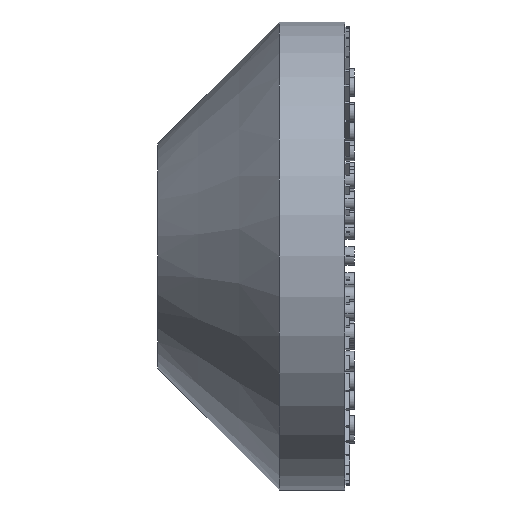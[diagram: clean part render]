
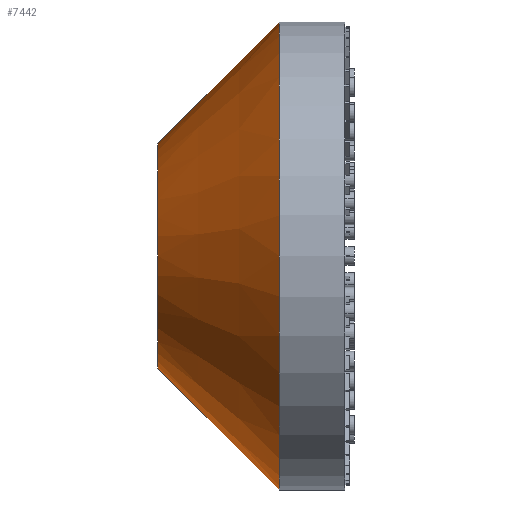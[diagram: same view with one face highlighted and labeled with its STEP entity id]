
A CAD part, left-side view. The second image highlights one B-rep face of the part: STEP entity #7442.
In plain terms, the highlighted conical face has half-angle 45 degrees and reference radius 12 mm.
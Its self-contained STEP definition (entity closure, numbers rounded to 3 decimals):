
#300 = DIRECTION ( 'NONE',  ( 0., -1., 0. ) ) ;
#349 = AXIS2_PLACEMENT_3D ( 'NONE', #2355, #300, #10784 ) ;
#1075 = VERTEX_POINT ( 'NONE', #7275 ) ;
#1261 = VECTOR ( 'NONE', #11555, 1000. ) ;
#1276 = EDGE_CURVE ( 'NONE', #8405, #9288, #11724, .T. ) ;
#2355 = CARTESIAN_POINT ( 'NONE',  ( 0., 20., 0. ) ) ;
#3158 = CARTESIAN_POINT ( 'NONE',  ( 0., 20., -12. ) ) ;
#3235 = VECTOR ( 'NONE', #8572, 1000. ) ;
#4015 = LINE ( 'NONE', #3158, #1261 ) ;
#4047 = CARTESIAN_POINT ( 'NONE',  ( 0., 7., -25. ) ) ;
#4158 = CARTESIAN_POINT ( 'NONE',  ( 0., 7., 0. ) ) ;
#4521 = DIRECTION ( 'NONE',  ( 0., 1., 0. ) ) ;
#4970 = FACE_OUTER_BOUND ( 'NONE', #12270, .T. ) ;
#5204 = DIRECTION ( 'NONE',  ( 0., 0., 1. ) ) ;
#5627 = EDGE_CURVE ( 'NONE', #1075, #9784, #11181, .T. ) ;
#6619 = EDGE_CURVE ( 'NONE', #1075, #9288, #4015, .T. ) ;
#7116 = CONICAL_SURFACE ( 'NONE', #349, 12., 0.785 ) ;
#7275 = CARTESIAN_POINT ( 'NONE',  ( 0., 20., -12. ) ) ;
#7442 = ADVANCED_FACE ( 'NONE', ( #4970 ), #7116, .T. ) ;
#7530 = CARTESIAN_POINT ( 'NONE',  ( 0., 20., 12. ) ) ;
#7895 = ORIENTED_EDGE ( 'NONE', *, *, #5627, .F. ) ;
#8197 = CARTESIAN_POINT ( 'NONE',  ( 0., 20., 12. ) ) ;
#8405 = VERTEX_POINT ( 'NONE', #11543 ) ;
#8572 = DIRECTION ( 'NONE',  ( 0., -0.707, 0.707 ) ) ;
#8825 = LINE ( 'NONE', #7530, #3235 ) ;
#9288 = VERTEX_POINT ( 'NONE', #4047 ) ;
#9336 = ORIENTED_EDGE ( 'NONE', *, *, #1276, .F. ) ;
#9784 = VERTEX_POINT ( 'NONE', #8197 ) ;
#10327 = ORIENTED_EDGE ( 'NONE', *, *, #6619, .T. ) ;
#10784 = DIRECTION ( 'NONE',  ( 0., 0., -1. ) ) ;
#10793 = ORIENTED_EDGE ( 'NONE', *, *, #10988, .F. ) ;
#10810 = CARTESIAN_POINT ( 'NONE',  ( 0., 20., 0. ) ) ;
#10988 = EDGE_CURVE ( 'NONE', #9784, #8405, #8825, .T. ) ;
#11181 = CIRCLE ( 'NONE', #12511, 12. ) ;
#11489 = DIRECTION ( 'NONE',  ( 0., -1., 0. ) ) ;
#11543 = CARTESIAN_POINT ( 'NONE',  ( 0., 7., 25. ) ) ;
#11555 = DIRECTION ( 'NONE',  ( 0., -0.707, -0.707 ) ) ;
#11724 = CIRCLE ( 'NONE', #13458, 25. ) ;
#11858 = DIRECTION ( 'NONE',  ( 0., 0., 1. ) ) ;
#12270 = EDGE_LOOP ( 'NONE', ( #10793, #7895, #10327, #9336 ) ) ;
#12511 = AXIS2_PLACEMENT_3D ( 'NONE', #10810, #4521, #11858 ) ;
#13458 = AXIS2_PLACEMENT_3D ( 'NONE', #4158, #11489, #5204 ) ;
